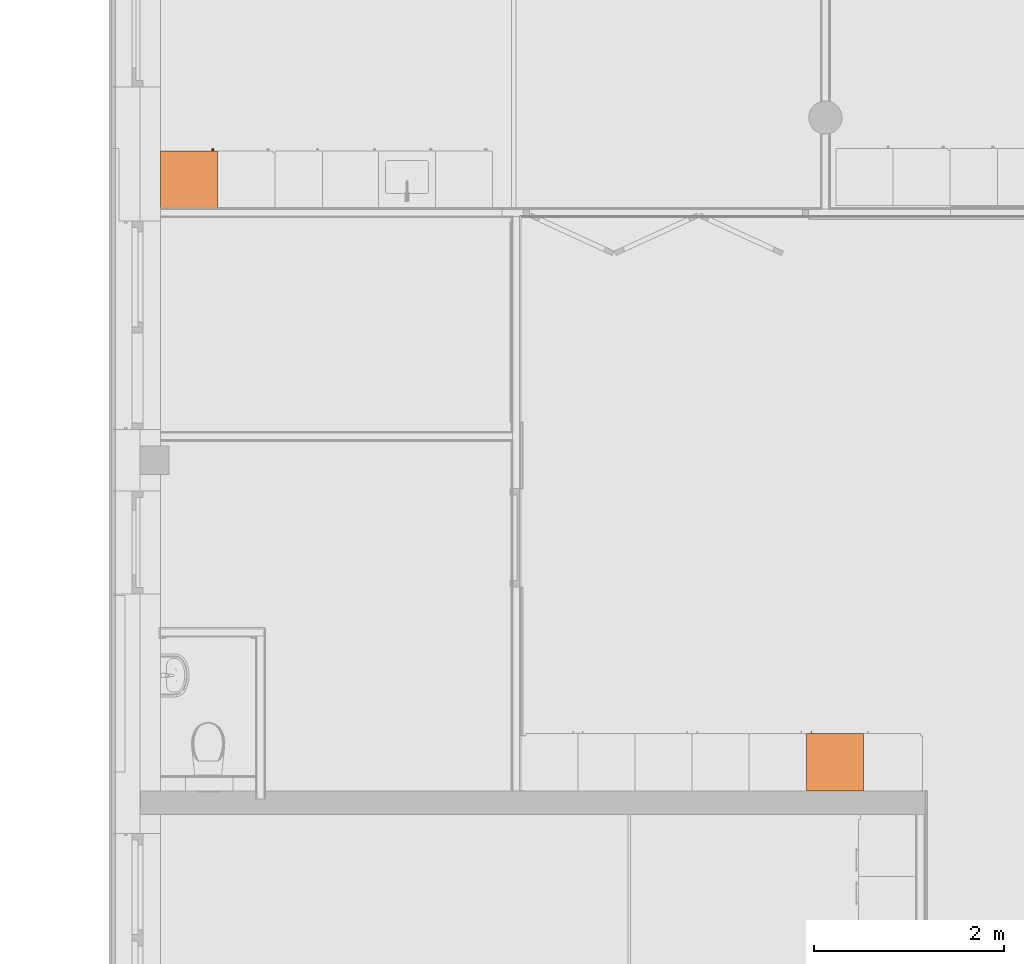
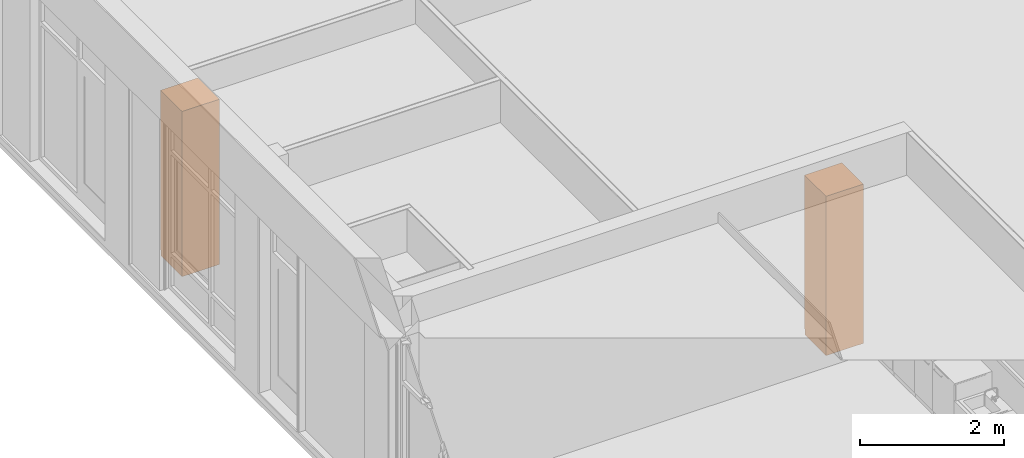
# One storey, part 100 of 167: 2 proxies.
"""IFC2X3 building model written with IfcOpenShell, lengths in millimetres."""

from ifc_helpers import new_model, entity, si_unit, converted_unit, derived_unit, money_unit, direction, frame, origin_with_axes, place, context, subcontext, project, spatial, open_shell, faceted_brep, surface_model, source, transform, mapped, type_object, type_shapes, element, save


model = new_model("IFC2X3")

# Units and contexts
model_context = context("Model", 3, precision=0.01, world=origin_with_axes(), true_north=direction((0.0, 1.0)))
plan_context = context("Plan", 3, precision=0.01, world=origin_with_axes(), true_north=direction((0.0, 1.0)))
body_context = subcontext(model_context, "Body", "Model", "MODEL_VIEW")
ifc_project = project(units=[si_unit("LENGTHUNIT", "METRE", prefix="MILLI"), si_unit("AREAUNIT", "SQUARE_METRE"), si_unit("VOLUMEUNIT", "CUBIC_METRE"), converted_unit("PLANEANGLEUNIT", "DEGREE", entity("IfcPlaneAngleMeasure", 0.0174532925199), si_unit("PLANEANGLEUNIT", "RADIAN"), dimensions=[0, 0, 0, 0, 0, 0, 0]), si_unit("SOLIDANGLEUNIT", "STERADIAN"), money_unit("EUR"), converted_unit("TIMEUNIT", "Year", entity("IfcTimeMeasure", 31556926.0), si_unit("TIMEUNIT", "SECOND"), dimensions=[0, 0, 1, 0, 0, 0, 0]), si_unit("MASSUNIT", "GRAM", prefix="KILO"), si_unit("THERMODYNAMICTEMPERATUREUNIT", "DEGREE_CELSIUS"), si_unit("LUMINOUSINTENSITYUNIT", "LUMEN"), si_unit("ENERGYUNIT", "JOULE", prefix="MEGA"), derived_unit("THERMALCONDUCTANCEUNIT", [(si_unit("POWERUNIT", "WATT"), 1), (si_unit("LENGTHUNIT", "METRE"), -1), (si_unit("THERMODYNAMICTEMPERATUREUNIT", "KELVIN"), -1)]), derived_unit("SPECIFICHEATCAPACITYUNIT", [(si_unit("ENERGYUNIT", "JOULE"), 1), (si_unit("MASSUNIT", "GRAM", prefix="KILO"), -1), (si_unit("THERMODYNAMICTEMPERATUREUNIT", "KELVIN"), -1)]), derived_unit("MASSDENSITYUNIT", [(si_unit("MASSUNIT", "GRAM", prefix="KILO"), 1), (si_unit("VOLUMEUNIT", "CUBIC_METRE"), -1)])], contexts=[model_context, plan_context])

# Site, building, storey
site_placement = place(None, origin_with_axes())
site = spatial("IfcSite", under=ifc_project, at=site_placement, Name="Site", CompositionType="ELEMENT")
building_placement = place(site_placement, origin_with_axes())
building = spatial("IfcBuilding", under=site, at=building_placement, Name="Naam gebouw", CompositionType="ELEMENT")
storey_placement = place(building_placement, origin_with_axes())
storey = spatial("IfcBuildingStorey", under=building, at=storey_placement, Name="Begane grond", CompositionType="ELEMENT", Elevation=0.0)

# Proxies
building_element_proxy_type = type_object("IfcBuildingElementProxyType", Name="Kast hoog 1D 24", PredefinedType="NOTDEFINED")
shared_shape_1 = source(origin_with_axes(), body_context, "Body", "Brep", [
    faceted_brep([(-20.0, 20.0, 838.5), (-20.0, 20.0, 858.5), (-580.0, 20.0, 858.5), (-580.0, 20.0, 838.5), (-20.0, 580.0, 838.5), (-20.0, 580.0, 858.5), (-580.0, 580.0, 858.5), (-580.0, 580.0, 838.5)], [[[0, 1, 2, 3]], [[4, 5, 1, 0]], [[1, 5, 6, 2]], [[3, 2, 6, 7]], [[0, 3, 7, 4]], [[7, 6, 5, 4]]]),
    faceted_brep([(0.0, 20.0, 0.0), (0.0, 20.0, 90.0), (-600.0, 20.0, 90.0), (-600.0, 20.0, 0.0), (0.0, 600.0, 0.0), (0.0, 600.0, 90.0), (-600.0, 600.0, 90.0), (-600.0, 600.0, 0.0)], [[[0, 1, 2, 3]], [[4, 5, 1, 0]], [[1, 5, 6, 2]], [[3, 2, 6, 7]], [[0, 3, 7, 4]], [[7, 6, 5, 4]]]),
    faceted_brep([(0.0, 20.0, 2780.0), (0.0, 20.0, 2800.0), (-20.0, 20.0, 2800.0), (-20.0, 20.0, 2780.0), (0.0, 600.0, 2780.0), (0.0, 600.0, 2800.0), (-20.0, 600.0, 2800.0), (-580.0, 600.0, 2800.0), (-600.0, 600.0, 2800.0), (-600.0, 20.0, 2800.0), (-580.0, 20.0, 2800.0), (-580.0, 20.0, 2780.0), (-600.0, 20.0, 2780.0), (-600.0, 600.0, 2780.0), (-580.0, 600.0, 2780.0), (-20.0, 600.0, 2780.0)], [[[0, 1, 2, 3]], [[4, 5, 1, 0]], [[1, 5, 6, 7, 8, 9, 10, 2]], [[3, 2, 10, 11]], [[0, 3, 11, 12, 13, 14, 15, 4]], [[15, 6, 5, 4]], [[14, 7, 6, 15]], [[13, 8, 7, 14]], [[12, 9, 8, 13]], [[11, 10, 9, 12]]]),
    faceted_brep([(0.0, 20.0, 90.0), (0.0, 20.0, 110.0), (-20.0, 20.0, 110.0), (-20.0, 20.0, 90.0), (0.0, 600.0, 90.0), (0.0, 600.0, 110.0), (-20.0, 600.0, 110.0), (-580.0, 600.0, 110.0), (-600.0, 600.0, 110.0), (-600.0, 20.0, 110.0), (-580.0, 20.0, 110.0), (-580.0, 20.0, 90.0), (-600.0, 20.0, 90.0), (-600.0, 600.0, 90.0), (-580.0, 600.0, 90.0), (-20.0, 600.0, 90.0)], [[[0, 1, 2, 3]], [[4, 5, 1, 0]], [[1, 5, 6, 7, 8, 9, 10, 2]], [[3, 2, 10, 11]], [[0, 3, 11, 12, 13, 14, 15, 4]], [[15, 6, 5, 4]], [[14, 7, 6, 15]], [[13, 8, 7, 14]], [[12, 9, 8, 13]], [[11, 10, 9, 12]]]),
    faceted_brep([(0.0, 20.0, 110.0), (0.0, 20.0, 2780.0), (-20.0, 20.0, 2780.0), (-20.0, 20.0, 110.0), (0.0, 600.0, 110.0), (0.0, 600.0, 2780.0), (-600.0, 600.0, 2780.0), (-600.0, 20.0, 2780.0), (-580.0, 20.0, 2780.0), (-580.0, 580.0, 2780.0), (-20.0, 580.0, 2780.0), (-20.0, 580.0, 110.0), (-580.0, 580.0, 110.0), (-580.0, 20.0, 110.0), (-600.0, 20.0, 110.0), (-600.0, 600.0, 110.0)], [[[0, 1, 2, 3]], [[4, 5, 1, 0]], [[1, 5, 6, 7, 8, 9, 10, 2]], [[3, 2, 10, 11]], [[0, 3, 11, 12, 13, 14, 15, 4]], [[15, 6, 5, 4]], [[14, 7, 6, 15]], [[13, 8, 7, 14]], [[12, 9, 8, 13]], [[11, 10, 9, 12]]]),
    faceted_brep([(-580.0, 20.0, 329.5), (-580.0, 20.0, 349.5), (-580.0, 580.0, 349.5), (-580.0, 580.0, 329.5), (-20.0, 20.0, 329.5), (-20.0, 20.0, 349.5), (-20.0, 580.0, 349.5), (-20.0, 580.0, 329.5)], [[[0, 1, 2, 3]], [[4, 5, 1, 0]], [[1, 5, 6, 2]], [[3, 2, 6, 7]], [[0, 3, 7, 4]], [[7, 6, 5, 4]]]),
    faceted_brep([(-580.0, 20.0, 589.0), (-580.0, 20.0, 609.0), (-580.0, 580.0, 609.0), (-580.0, 580.0, 589.0), (-20.0, 20.0, 589.0), (-20.0, 20.0, 609.0), (-20.0, 580.0, 609.0), (-20.0, 580.0, 589.0)], [[[0, 1, 2, 3]], [[4, 5, 1, 0]], [[1, 5, 6, 2]], [[3, 2, 6, 7]], [[0, 3, 7, 4]], [[7, 6, 5, 4]]]),
    faceted_brep([(-1.5, 20.0, 91.5), (-1.5, 0.0, 91.5), (-598.5, 0.0, 91.5), (-598.5, 20.0, 91.5), (-1.5, 20.0, 847.0), (-1.5, 0.0, 847.0), (-598.5, 0.0, 847.0), (-598.5, 20.0, 847.0)], [[[0, 1, 2, 3]], [[4, 5, 1, 0]], [[1, 5, 6, 2]], [[3, 2, 6, 7]], [[0, 3, 7, 4]], [[7, 6, 5, 4]]]),
    faceted_brep([(-560.091109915, 0.0, 838.394171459), (-560.5, 0.0, 841.5), (-560.091109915, 0.0, 844.605828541), (-558.892304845, 0.0, 847.5), (-556.985281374, 0.0, 849.985281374), (-554.5, 0.0, 851.892304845), (-551.605828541, 0.0, 853.091109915), (-548.5, 0.0, 853.5), (-545.394171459, 0.0, 853.091109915), (-542.5, 0.0, 851.892304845), (-540.014718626, 0.0, 849.985281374), (-538.107695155, 0.0, 847.5), (-536.908890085, 0.0, 844.605828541), (-536.5, 0.0, 841.5), (-536.908890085, 0.0, 838.394171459), (-538.107695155, 0.0, 835.5), (-540.014718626, 0.0, 833.014718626), (-542.5, 0.0, 831.107695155), (-545.394171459, 0.0, 829.908890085), (-548.5, 0.0, 829.5), (-551.605828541, 0.0, 829.908890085), (-554.5, 0.0, 831.107695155), (-556.985281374, 0.0, 833.014718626), (-558.892304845, 0.0, 835.5), (-560.091109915, -25.0, 838.394171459), (-560.5, -25.0, 841.5), (-560.091109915, -25.0, 844.605828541), (-558.892304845, -25.0, 847.5), (-556.985281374, -25.0, 849.985281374), (-554.5, -25.0, 851.892304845), (-551.605828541, -25.0, 853.091109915), (-548.5, -25.0, 853.5), (-545.394171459, -25.0, 853.091109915), (-542.5, -25.0, 851.892304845), (-540.014718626, -25.0, 849.985281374), (-538.107695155, -25.0, 847.5), (-536.908890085, -25.0, 844.605828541), (-536.5, -25.0, 841.5), (-536.908890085, -25.0, 838.394171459), (-538.107695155, -25.0, 835.5), (-540.014718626, -25.0, 833.014718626), (-542.5, -25.0, 831.107695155), (-545.394171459, -25.0, 829.908890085), (-548.5, -25.0, 829.5), (-551.605828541, -25.0, 829.908890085), (-554.5, -25.0, 831.107695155), (-556.985281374, -25.0, 833.014718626), (-558.892304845, -25.0, 835.5)], [[[0, 1, 2, 3, 4, 5, 6, 7, 8, 9, 10, 11, 12, 13, 14, 15, 16, 17, 18, 19, 20, 21, 22, 23]], [[0, 24, 25, 1]], [[1, 25, 26, 2]], [[2, 26, 27, 3]], [[3, 27, 28, 4]], [[4, 28, 29, 5]], [[5, 29, 30, 6]], [[6, 30, 31, 7]], [[7, 31, 32, 8]], [[8, 32, 33, 9]], [[9, 33, 34, 10]], [[10, 34, 35, 11]], [[11, 35, 36, 12]], [[12, 36, 37, 13]], [[13, 37, 38, 14]], [[14, 38, 39, 15]], [[15, 39, 40, 16]], [[16, 40, 41, 17]], [[17, 41, 42, 18]], [[18, 42, 43, 19]], [[19, 43, 44, 20]], [[20, 44, 45, 21]], [[21, 45, 46, 22]], [[22, 46, 47, 23]], [[23, 47, 24, 0]], [[24, 47, 46, 45, 44, 43, 42, 41, 40, 39, 38, 37, 36, 35, 34, 33, 32, 31, 30, 29, 28, 27, 26, 25]]]),
    faceted_brep([(-1.5, 20.0, 850.0), (-1.5, 0.0, 850.0), (-598.5, 0.0, 850.0), (-598.5, 20.0, 850.0), (-1.5, 20.0, 2798.5), (-1.5, 0.0, 2798.5), (-598.5, 0.0, 2798.5), (-598.5, 20.0, 2798.5)], [[[0, 1, 2, 3]], [[4, 5, 1, 0]], [[1, 5, 6, 2]], [[3, 2, 6, 7]], [[0, 3, 7, 4]], [[7, 6, 5, 4]]]),
    faceted_brep([(-560.091109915, 0.0, 896.894171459), (-560.5, 0.0, 900.0), (-560.091109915, 0.0, 903.105828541), (-558.892304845, 0.0, 906.0), (-556.985281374, 0.0, 908.485281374), (-554.5, 0.0, 910.392304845), (-551.605828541, 0.0, 911.591109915), (-548.5, 0.0, 912.0), (-545.394171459, 0.0, 911.591109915), (-542.5, 0.0, 910.392304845), (-540.014718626, 0.0, 908.485281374), (-538.107695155, 0.0, 906.0), (-536.908890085, 0.0, 903.105828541), (-536.5, 0.0, 900.0), (-536.908890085, 0.0, 896.894171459), (-538.107695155, 0.0, 894.0), (-540.014718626, 0.0, 891.514718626), (-542.5, 0.0, 889.607695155), (-545.394171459, 0.0, 888.408890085), (-548.5, 0.0, 888.0), (-551.605828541, 0.0, 888.408890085), (-554.5, 0.0, 889.607695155), (-556.985281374, 0.0, 891.514718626), (-558.892304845, 0.0, 894.0), (-560.091109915, -25.0, 896.894171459), (-560.5, -25.0, 900.0), (-560.091109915, -25.0, 903.105828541), (-558.892304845, -25.0, 906.0), (-556.985281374, -25.0, 908.485281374), (-554.5, -25.0, 910.392304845), (-551.605828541, -25.0, 911.591109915), (-548.5, -25.0, 912.0), (-545.394171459, -25.0, 911.591109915), (-542.5, -25.0, 910.392304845), (-540.014718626, -25.0, 908.485281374), (-538.107695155, -25.0, 906.0), (-536.908890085, -25.0, 903.105828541), (-536.5, -25.0, 900.0), (-536.908890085, -25.0, 896.894171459), (-538.107695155, -25.0, 894.0), (-540.014718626, -25.0, 891.514718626), (-542.5, -25.0, 889.607695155), (-545.394171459, -25.0, 888.408890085), (-548.5, -25.0, 888.0), (-551.605828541, -25.0, 888.408890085), (-554.5, -25.0, 889.607695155), (-556.985281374, -25.0, 891.514718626), (-558.892304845, -25.0, 894.0)], [[[0, 1, 2, 3, 4, 5, 6, 7, 8, 9, 10, 11, 12, 13, 14, 15, 16, 17, 18, 19, 20, 21, 22, 23]], [[0, 24, 25, 1]], [[1, 25, 26, 2]], [[2, 26, 27, 3]], [[3, 27, 28, 4]], [[4, 28, 29, 5]], [[5, 29, 30, 6]], [[6, 30, 31, 7]], [[7, 31, 32, 8]], [[8, 32, 33, 9]], [[9, 33, 34, 10]], [[10, 34, 35, 11]], [[11, 35, 36, 12]], [[12, 36, 37, 13]], [[13, 37, 38, 14]], [[14, 38, 39, 15]], [[15, 39, 40, 16]], [[16, 40, 41, 17]], [[17, 41, 42, 18]], [[18, 42, 43, 19]], [[19, 43, 44, 20]], [[20, 44, 45, 21]], [[21, 45, 46, 22]], [[22, 46, 47, 23]], [[23, 47, 24, 0]], [[24, 47, 46, 45, 44, 43, 42, 41, 40, 39, 38, 37, 36, 35, 34, 33, 32, 31, 30, 29, 28, 27, 26, 25]]]),
])
proxy_1_placement = place(storey_placement, frame((214.0, 42850.0, 0.0), z_axis=(0.0, 0.0, 1.0), x_axis=(-1.0, 0.0, 0.0)))
element("IfcBuildingElementProxy", 1, at=proxy_1_placement, inside=storey, type_object=building_element_proxy_type, Name="__Object-x", context=body_context, shape_type="MappedRepresentation", body=[
    mapped(shared_shape_1, transform((0.0, 0.0, 0.0))),
])
shared_shape_2 = source(origin_with_axes(), body_context, "Body", "SurfaceModel", [
    faceted_brep([(20.0, 20.0, 1780.0), (580.0, 20.0, 1780.0), (580.0, 20.0, 1800.0), (20.0, 20.0, 1800.0), (20.0, 580.0, 1780.0), (580.0, 580.0, 1780.0), (580.0, 580.0, 1800.0), (20.0, 580.0, 1800.0)], [[[0, 1, 2, 3]], [[0, 4, 5, 1]], [[1, 5, 6, 2]], [[3, 2, 6, 7]], [[4, 0, 3, 7]], [[5, 4, 7, 6]]]),
    faceted_brep([(0.0, 20.0, 0.0), (600.0, 20.0, 0.0), (600.0, 20.0, 90.0), (0.0, 20.0, 90.0), (0.0, 600.0, 0.0), (600.0, 600.0, 0.0), (600.0, 600.0, 90.0), (0.0, 600.0, 90.0)], [[[0, 1, 2, 3]], [[0, 4, 5, 1]], [[1, 5, 6, 2]], [[3, 2, 6, 7]], [[4, 0, 3, 7]], [[5, 4, 7, 6]]]),
    faceted_brep([(0.0, 20.0, 2680.0), (20.0, 20.0, 2680.0), (20.0, 20.0, 2700.0), (0.0, 20.0, 2700.0), (0.0, 600.0, 2680.0), (20.0, 600.0, 2680.0), (580.0, 600.0, 2680.0), (600.0, 600.0, 2680.0), (600.0, 20.0, 2680.0), (580.0, 20.0, 2680.0), (580.0, 20.0, 2700.0), (600.0, 20.0, 2700.0), (600.0, 600.0, 2700.0), (580.0, 600.0, 2700.0), (20.0, 600.0, 2700.0), (0.0, 600.0, 2700.0)], [[[0, 1, 2, 3]], [[0, 4, 5, 6, 7, 8, 9, 1]], [[1, 9, 10, 2]], [[3, 2, 10, 11, 12, 13, 14, 15]], [[4, 0, 3, 15]], [[5, 4, 15, 14]], [[6, 5, 14, 13]], [[7, 6, 13, 12]], [[8, 7, 12, 11]], [[9, 8, 11, 10]]]),
    faceted_brep([(0.0, 20.0, 90.0), (20.0, 20.0, 90.0), (20.0, 20.0, 110.0), (0.0, 20.0, 110.0), (0.0, 600.0, 90.0), (20.0, 600.0, 90.0), (580.0, 600.0, 90.0), (600.0, 600.0, 90.0), (600.0, 20.0, 90.0), (580.0, 20.0, 90.0), (580.0, 20.0, 110.0), (600.0, 20.0, 110.0), (600.0, 600.0, 110.0), (580.0, 600.0, 110.0), (20.0, 600.0, 110.0), (0.0, 600.0, 110.0)], [[[0, 1, 2, 3]], [[0, 4, 5, 6, 7, 8, 9, 1]], [[1, 9, 10, 2]], [[3, 2, 10, 11, 12, 13, 14, 15]], [[4, 0, 3, 15]], [[5, 4, 15, 14]], [[6, 5, 14, 13]], [[7, 6, 13, 12]], [[8, 7, 12, 11]], [[9, 8, 11, 10]]]),
    faceted_brep([(0.0, 20.0, 110.0), (20.0, 20.0, 110.0), (20.0, 20.0, 2680.0), (0.0, 20.0, 2680.0), (0.0, 600.0, 110.0), (600.0, 600.0, 110.0), (600.0, 20.0, 110.0), (580.0, 20.0, 110.0), (580.0, 580.0, 110.0), (20.0, 580.0, 110.0), (20.0, 580.0, 2680.0), (580.0, 580.0, 2680.0), (580.0, 20.0, 2680.0), (600.0, 20.0, 2680.0), (600.0, 600.0, 2680.0), (0.0, 600.0, 2680.0)], [[[0, 1, 2, 3]], [[0, 4, 5, 6, 7, 8, 9, 1]], [[1, 9, 10, 2]], [[3, 2, 10, 11, 12, 13, 14, 15]], [[4, 0, 3, 15]], [[5, 4, 15, 14]], [[6, 5, 14, 13]], [[7, 6, 13, 12]], [[8, 7, 12, 11]], [[9, 8, 11, 10]]]),
    faceted_brep([(580.0, 20.0, 414.0), (580.0, 580.0, 414.0), (580.0, 580.0, 434.0), (580.0, 20.0, 434.0), (20.0, 20.0, 414.0), (20.0, 580.0, 414.0), (20.0, 580.0, 434.0), (20.0, 20.0, 434.0)], [[[0, 1, 2, 3]], [[0, 4, 5, 1]], [[1, 5, 6, 2]], [[3, 2, 6, 7]], [[4, 0, 3, 7]], [[5, 4, 7, 6]]]),
    faceted_brep([(580.0, 20.0, 758.0), (580.0, 580.0, 758.0), (580.0, 580.0, 778.0), (580.0, 20.0, 778.0), (20.0, 20.0, 758.0), (20.0, 580.0, 758.0), (20.0, 580.0, 778.0), (20.0, 20.0, 778.0)], [[[0, 1, 2, 3]], [[0, 4, 5, 1]], [[1, 5, 6, 2]], [[3, 2, 6, 7]], [[4, 0, 3, 7]], [[5, 4, 7, 6]]]),
    faceted_brep([(580.0, 20.0, 1102.0), (580.0, 580.0, 1102.0), (580.0, 580.0, 1122.0), (580.0, 20.0, 1122.0), (20.0, 20.0, 1102.0), (20.0, 580.0, 1102.0), (20.0, 580.0, 1122.0), (20.0, 20.0, 1122.0)], [[[0, 1, 2, 3]], [[0, 4, 5, 1]], [[1, 5, 6, 2]], [[3, 2, 6, 7]], [[4, 0, 3, 7]], [[5, 4, 7, 6]]]),
    faceted_brep([(580.0, 20.0, 1446.0), (580.0, 580.0, 1446.0), (580.0, 580.0, 1466.0), (580.0, 20.0, 1466.0), (20.0, 20.0, 1446.0), (20.0, 580.0, 1446.0), (20.0, 580.0, 1466.0), (20.0, 20.0, 1466.0)], [[[0, 1, 2, 3]], [[0, 4, 5, 1]], [[1, 5, 6, 2]], [[3, 2, 6, 7]], [[4, 0, 3, 7]], [[5, 4, 7, 6]]]),
    faceted_brep([(1.5, 20.0, 91.5), (598.5, 20.0, 91.5), (598.5, 0.0, 91.5), (1.5, 0.0, 91.5), (1.5, 20.0, 1788.5), (598.5, 20.0, 1788.5), (598.5, 0.0, 1788.5), (1.5, 0.0, 1788.5)], [[[0, 1, 2, 3]], [[0, 4, 5, 1]], [[1, 5, 6, 2]], [[3, 2, 6, 7]], [[4, 0, 3, 7]], [[5, 4, 7, 6]]]),
    faceted_brep([(551.397777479, -27.7764571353, 891.5), (551.098076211, -28.5, 891.5), (550.621320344, -29.1213203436, 891.5), (550.0, -29.5980762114, 891.5), (549.276457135, -29.8977774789, 891.5), (548.5, -30.0, 891.5), (547.723542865, -29.8977774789, 891.5), (547.0, -29.5980762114, 891.5), (546.378679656, -29.1213203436, 891.5), (545.901923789, -28.5, 891.5), (545.602222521, -27.7764571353, 891.5), (545.5, -27.0, 891.5), (545.602222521, -26.2235428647, 891.5), (545.901923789, -25.5, 891.5), (546.378679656, -24.8786796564, 891.5), (547.0, -24.4019237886, 891.5), (547.723542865, -24.1022225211, 891.5), (548.5, -24.0, 891.5), (549.276457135, -24.1022225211, 891.5), (550.0, -24.4019237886, 891.5), (550.621320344, -24.8786796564, 891.5), (551.098076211, -25.5, 891.5), (551.397777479, -26.2235428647, 891.5), (551.5, -27.0, 891.5), (551.397777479, -27.7764571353, 1141.5), (551.098076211, -28.5, 1141.5), (550.621320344, -29.1213203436, 1141.5), (550.0, -29.5980762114, 1141.5), (549.276457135, -29.8977774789, 1141.5), (548.5, -30.0, 1141.5), (547.723542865, -29.8977774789, 1141.5), (547.0, -29.5980762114, 1141.5), (546.378679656, -29.1213203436, 1141.5), (545.901923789, -28.5, 1141.5), (545.602222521, -27.7764571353, 1141.5), (545.5, -27.0, 1141.5), (545.602222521, -26.2235428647, 1141.5), (545.901923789, -25.5, 1141.5), (546.378679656, -24.8786796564, 1141.5), (547.0, -24.4019237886, 1141.5), (547.723542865, -24.1022225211, 1141.5), (548.5, -24.0, 1141.5), (549.276457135, -24.1022225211, 1141.5), (550.0, -24.4019237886, 1141.5), (550.621320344, -24.8786796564, 1141.5), (551.098076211, -25.5, 1141.5), (551.397777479, -26.2235428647, 1141.5), (551.5, -27.0, 1141.5)], [[[0, 1, 2, 3, 4, 5, 6, 7, 8, 9, 10, 11, 12, 13, 14, 15, 16, 17, 18, 19, 20, 21, 22, 23]], [[1, 0, 24, 25]], [[2, 1, 25, 26]], [[3, 2, 26, 27]], [[4, 3, 27, 28]], [[5, 4, 28, 29]], [[6, 5, 29, 30]], [[7, 6, 30, 31]], [[8, 7, 31, 32]], [[9, 8, 32, 33]], [[10, 9, 33, 34]], [[11, 10, 34, 35]], [[12, 11, 35, 36]], [[13, 12, 36, 37]], [[14, 13, 37, 38]], [[15, 14, 38, 39]], [[16, 15, 39, 40]], [[17, 16, 40, 41]], [[18, 17, 41, 42]], [[19, 18, 42, 43]], [[20, 19, 43, 44]], [[21, 20, 44, 45]], [[22, 21, 45, 46]], [[23, 22, 46, 47]], [[0, 23, 47, 24]], [[24, 47, 46, 45, 44, 43, 42, 41, 40, 39, 38, 37, 36, 35, 34, 33, 32, 31, 30, 29, 28, 27, 26, 25]]]),
    surface_model("IfcShellBasedSurfaceModel", [(549.147047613, -24.070609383, 914.085185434), (548.5, -24.0, 914.0), (548.5, 0.0, 914.0), (549.147047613, 0.0, 914.085185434), (547.852952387, -24.070609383, 914.085185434), (547.852952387, 0.0, 914.085185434), (547.25, 0.0, 914.334936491), (546.732233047, 0.0, 914.732233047), (546.334936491, 0.0, 915.25), (546.085185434, 0.0, 915.852952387), (546.0, 0.0, 916.5), (546.085185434, 0.0, 917.147047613), (546.334936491, 0.0, 917.75), (546.732233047, 0.0, 918.267766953), (547.25, 0.0, 918.665063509), (547.852952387, 0.0, 918.914814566), (548.5, 0.0, 919.0), (549.147047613, 0.0, 918.914814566), (549.75, 0.0, 918.665063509), (550.267766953, 0.0, 918.267766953), (550.665063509, 0.0, 917.75), (550.914814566, 0.0, 917.147047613), (551.0, 0.0, 916.5), (550.914814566, 0.0, 915.852952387), (550.665063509, 0.0, 915.25), (550.267766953, 0.0, 914.732233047), (549.75, 0.0, 914.334936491), (549.75, -24.2728219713, 914.334936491), (547.25, -24.2728219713, 914.334936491), (546.732233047, -24.5761600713, 914.732233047), (546.334936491, -24.9233440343, 915.25), (546.085185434, -25.2199239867, 915.852952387), (546.0, -25.3416876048, 916.5), (546.085185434, -25.2199239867, 917.147047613), (546.334936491, -24.9233440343, 917.75), (546.732233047, -24.5761600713, 918.267766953), (547.25, -24.2728219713, 918.665063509), (547.852952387, -24.070609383, 918.914814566), (548.5, -24.0, 919.0), (549.147047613, -24.070609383, 918.914814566), (549.75, -24.2728219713, 918.665063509), (550.267766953, -24.5761600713, 918.267766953), (550.665063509, -24.9233440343, 917.75), (550.914814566, -25.2199239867, 917.147047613), (551.0, -25.3416876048, 916.5), (550.914814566, -25.2199239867, 915.852952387), (550.665063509, -24.9233440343, 915.25), (550.267766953, -24.5761600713, 914.732233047)], [open_shell([[[0, 1, 2, 3]], [[1, 4, 5, 2]], [[3, 2, 5, 6, 7, 8, 9, 10, 11, 12, 13, 14, 15, 16, 17, 18, 19, 20, 21, 22, 23, 24, 25, 26]], [[27, 0, 3, 26]], [[4, 28, 6, 5]], [[28, 29, 7, 6]], [[29, 30, 8, 7]], [[30, 31, 9, 8]], [[31, 32, 10, 9]], [[32, 33, 11, 10]], [[33, 34, 12, 11]], [[34, 35, 13, 12]], [[35, 36, 14, 13]], [[36, 37, 15, 14]], [[37, 38, 16, 15]], [[38, 39, 17, 16]], [[39, 40, 18, 17]], [[40, 41, 19, 18]], [[41, 42, 20, 19]], [[42, 43, 21, 20]], [[43, 44, 22, 21]], [[44, 45, 23, 22]], [[45, 46, 24, 23]], [[46, 47, 25, 24]], [[47, 27, 26, 25]]])]),
    surface_model("IfcShellBasedSurfaceModel", [(549.147047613, -24.070609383, 1114.08518543), (548.5, -24.0, 1114.0), (548.5, 0.0, 1114.0), (549.147047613, 0.0, 1114.08518543), (547.852952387, -24.070609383, 1114.08518543), (547.852952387, 0.0, 1114.08518543), (547.25, 0.0, 1114.33493649), (546.732233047, 0.0, 1114.73223305), (546.334936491, 0.0, 1115.25), (546.085185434, 0.0, 1115.85295239), (546.0, 0.0, 1116.5), (546.085185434, 0.0, 1117.14704761), (546.334936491, 0.0, 1117.75), (546.732233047, 0.0, 1118.26776695), (547.25, 0.0, 1118.66506351), (547.852952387, 0.0, 1118.91481457), (548.5, 0.0, 1119.0), (549.147047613, 0.0, 1118.91481457), (549.75, 0.0, 1118.66506351), (550.267766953, 0.0, 1118.26776695), (550.665063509, 0.0, 1117.75), (550.914814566, 0.0, 1117.14704761), (551.0, 0.0, 1116.5), (550.914814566, 0.0, 1115.85295239), (550.665063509, 0.0, 1115.25), (550.267766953, 0.0, 1114.73223305), (549.75, 0.0, 1114.33493649), (549.75, -24.2728219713, 1114.33493649), (547.25, -24.2728219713, 1114.33493649), (546.732233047, -24.5761600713, 1114.73223305), (546.334936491, -24.9233440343, 1115.25), (546.085185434, -25.2199239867, 1115.85295239), (546.0, -25.3416876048, 1116.5), (546.085185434, -25.2199239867, 1117.14704761), (546.334936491, -24.9233440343, 1117.75), (546.732233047, -24.5761600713, 1118.26776695), (547.25, -24.2728219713, 1118.66506351), (547.852952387, -24.070609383, 1118.91481457), (548.5, -24.0, 1119.0), (549.147047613, -24.070609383, 1118.91481457), (549.75, -24.2728219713, 1118.66506351), (550.267766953, -24.5761600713, 1118.26776695), (550.665063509, -24.9233440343, 1117.75), (550.914814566, -25.2199239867, 1117.14704761), (551.0, -25.3416876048, 1116.5), (550.914814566, -25.2199239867, 1115.85295239), (550.665063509, -24.9233440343, 1115.25), (550.267766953, -24.5761600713, 1114.73223305)], [open_shell([[[0, 1, 2, 3]], [[1, 4, 5, 2]], [[3, 2, 5, 6, 7, 8, 9, 10, 11, 12, 13, 14, 15, 16, 17, 18, 19, 20, 21, 22, 23, 24, 25, 26]], [[27, 0, 3, 26]], [[4, 28, 6, 5]], [[28, 29, 7, 6]], [[29, 30, 8, 7]], [[30, 31, 9, 8]], [[31, 32, 10, 9]], [[32, 33, 11, 10]], [[33, 34, 12, 11]], [[34, 35, 13, 12]], [[35, 36, 14, 13]], [[36, 37, 15, 14]], [[37, 38, 16, 15]], [[38, 39, 17, 16]], [[39, 40, 18, 17]], [[40, 41, 19, 18]], [[41, 42, 20, 19]], [[42, 43, 21, 20]], [[43, 44, 22, 21]], [[44, 45, 23, 22]], [[45, 46, 24, 23]], [[46, 47, 25, 24]], [[47, 27, 26, 25]]])]),
    faceted_brep([(1.5, 20.0, 1791.5), (598.5, 20.0, 1791.5), (598.5, 0.0, 1791.5), (1.5, 0.0, 1791.5), (1.5, 20.0, 2698.5), (598.5, 20.0, 2698.5), (598.5, 0.0, 2698.5), (1.5, 0.0, 2698.5)], [[[0, 1, 2, 3]], [[0, 4, 5, 1]], [[1, 5, 6, 2]], [[3, 2, 6, 7]], [[4, 0, 3, 7]], [[5, 4, 7, 6]]]),
    faceted_brep([(551.397777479, -27.7764571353, 1841.5), (551.098076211, -28.5, 1841.5), (550.621320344, -29.1213203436, 1841.5), (550.0, -29.5980762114, 1841.5), (549.276457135, -29.8977774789, 1841.5), (548.5, -30.0, 1841.5), (547.723542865, -29.8977774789, 1841.5), (547.0, -29.5980762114, 1841.5), (546.378679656, -29.1213203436, 1841.5), (545.901923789, -28.5, 1841.5), (545.602222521, -27.7764571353, 1841.5), (545.5, -27.0, 1841.5), (545.602222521, -26.2235428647, 1841.5), (545.901923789, -25.5, 1841.5), (546.378679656, -24.8786796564, 1841.5), (547.0, -24.4019237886, 1841.5), (547.723542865, -24.1022225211, 1841.5), (548.5, -24.0, 1841.5), (549.276457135, -24.1022225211, 1841.5), (550.0, -24.4019237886, 1841.5), (550.621320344, -24.8786796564, 1841.5), (551.098076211, -25.5, 1841.5), (551.397777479, -26.2235428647, 1841.5), (551.5, -27.0, 1841.5), (551.397777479, -27.7764571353, 2091.5), (551.098076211, -28.5, 2091.5), (550.621320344, -29.1213203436, 2091.5), (550.0, -29.5980762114, 2091.5), (549.276457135, -29.8977774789, 2091.5), (548.5, -30.0, 2091.5), (547.723542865, -29.8977774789, 2091.5), (547.0, -29.5980762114, 2091.5), (546.378679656, -29.1213203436, 2091.5), (545.901923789, -28.5, 2091.5), (545.602222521, -27.7764571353, 2091.5), (545.5, -27.0, 2091.5), (545.602222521, -26.2235428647, 2091.5), (545.901923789, -25.5, 2091.5), (546.378679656, -24.8786796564, 2091.5), (547.0, -24.4019237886, 2091.5), (547.723542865, -24.1022225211, 2091.5), (548.5, -24.0, 2091.5), (549.276457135, -24.1022225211, 2091.5), (550.0, -24.4019237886, 2091.5), (550.621320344, -24.8786796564, 2091.5), (551.098076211, -25.5, 2091.5), (551.397777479, -26.2235428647, 2091.5), (551.5, -27.0, 2091.5)], [[[0, 1, 2, 3, 4, 5, 6, 7, 8, 9, 10, 11, 12, 13, 14, 15, 16, 17, 18, 19, 20, 21, 22, 23]], [[1, 0, 24, 25]], [[2, 1, 25, 26]], [[3, 2, 26, 27]], [[4, 3, 27, 28]], [[5, 4, 28, 29]], [[6, 5, 29, 30]], [[7, 6, 30, 31]], [[8, 7, 31, 32]], [[9, 8, 32, 33]], [[10, 9, 33, 34]], [[11, 10, 34, 35]], [[12, 11, 35, 36]], [[13, 12, 36, 37]], [[14, 13, 37, 38]], [[15, 14, 38, 39]], [[16, 15, 39, 40]], [[17, 16, 40, 41]], [[18, 17, 41, 42]], [[19, 18, 42, 43]], [[20, 19, 43, 44]], [[21, 20, 44, 45]], [[22, 21, 45, 46]], [[23, 22, 46, 47]], [[0, 23, 47, 24]], [[24, 47, 46, 45, 44, 43, 42, 41, 40, 39, 38, 37, 36, 35, 34, 33, 32, 31, 30, 29, 28, 27, 26, 25]]]),
    surface_model("IfcShellBasedSurfaceModel", [(549.147047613, -24.070609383, 1864.08518543), (548.5, -24.0, 1864.0), (548.5, 0.0, 1864.0), (549.147047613, 0.0, 1864.08518543), (547.852952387, -24.070609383, 1864.08518543), (547.852952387, 0.0, 1864.08518543), (547.25, 0.0, 1864.33493649), (546.732233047, 0.0, 1864.73223305), (546.334936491, 0.0, 1865.25), (546.085185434, 0.0, 1865.85295239), (546.0, 0.0, 1866.5), (546.085185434, 0.0, 1867.14704761), (546.334936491, 0.0, 1867.75), (546.732233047, 0.0, 1868.26776695), (547.25, 0.0, 1868.66506351), (547.852952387, 0.0, 1868.91481457), (548.5, 0.0, 1869.0), (549.147047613, 0.0, 1868.91481457), (549.75, 0.0, 1868.66506351), (550.267766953, 0.0, 1868.26776695), (550.665063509, 0.0, 1867.75), (550.914814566, 0.0, 1867.14704761), (551.0, 0.0, 1866.5), (550.914814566, 0.0, 1865.85295239), (550.665063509, 0.0, 1865.25), (550.267766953, 0.0, 1864.73223305), (549.75, 0.0, 1864.33493649), (549.75, -24.2728219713, 1864.33493649), (547.25, -24.2728219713, 1864.33493649), (546.732233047, -24.5761600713, 1864.73223305), (546.334936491, -24.9233440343, 1865.25), (546.085185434, -25.2199239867, 1865.85295239), (546.0, -25.3416876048, 1866.5), (546.085185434, -25.2199239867, 1867.14704761), (546.334936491, -24.9233440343, 1867.75), (546.732233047, -24.5761600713, 1868.26776695), (547.25, -24.2728219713, 1868.66506351), (547.852952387, -24.070609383, 1868.91481457), (548.5, -24.0, 1869.0), (549.147047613, -24.070609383, 1868.91481457), (549.75, -24.2728219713, 1868.66506351), (550.267766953, -24.5761600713, 1868.26776695), (550.665063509, -24.9233440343, 1867.75), (550.914814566, -25.2199239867, 1867.14704761), (551.0, -25.3416876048, 1866.5), (550.914814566, -25.2199239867, 1865.85295239), (550.665063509, -24.9233440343, 1865.25), (550.267766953, -24.5761600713, 1864.73223305)], [open_shell([[[0, 1, 2, 3]], [[1, 4, 5, 2]], [[3, 2, 5, 6, 7, 8, 9, 10, 11, 12, 13, 14, 15, 16, 17, 18, 19, 20, 21, 22, 23, 24, 25, 26]], [[27, 0, 3, 26]], [[4, 28, 6, 5]], [[28, 29, 7, 6]], [[29, 30, 8, 7]], [[30, 31, 9, 8]], [[31, 32, 10, 9]], [[32, 33, 11, 10]], [[33, 34, 12, 11]], [[34, 35, 13, 12]], [[35, 36, 14, 13]], [[36, 37, 15, 14]], [[37, 38, 16, 15]], [[38, 39, 17, 16]], [[39, 40, 18, 17]], [[40, 41, 19, 18]], [[41, 42, 20, 19]], [[42, 43, 21, 20]], [[43, 44, 22, 21]], [[44, 45, 23, 22]], [[45, 46, 24, 23]], [[46, 47, 25, 24]], [[47, 27, 26, 25]]])]),
    surface_model("IfcShellBasedSurfaceModel", [(549.147047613, -24.070609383, 2064.08518543), (548.5, -24.0, 2064.0), (548.5, 0.0, 2064.0), (549.147047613, 0.0, 2064.08518543), (547.852952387, -24.070609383, 2064.08518543), (547.852952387, 0.0, 2064.08518543), (547.25, 0.0, 2064.33493649), (546.732233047, 0.0, 2064.73223305), (546.334936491, 0.0, 2065.25), (546.085185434, 0.0, 2065.85295239), (546.0, 0.0, 2066.5), (546.085185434, 0.0, 2067.14704761), (546.334936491, 0.0, 2067.75), (546.732233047, 0.0, 2068.26776695), (547.25, 0.0, 2068.66506351), (547.852952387, 0.0, 2068.91481457), (548.5, 0.0, 2069.0), (549.147047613, 0.0, 2068.91481457), (549.75, 0.0, 2068.66506351), (550.267766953, 0.0, 2068.26776695), (550.665063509, 0.0, 2067.75), (550.914814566, 0.0, 2067.14704761), (551.0, 0.0, 2066.5), (550.914814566, 0.0, 2065.85295239), (550.665063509, 0.0, 2065.25), (550.267766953, 0.0, 2064.73223305), (549.75, 0.0, 2064.33493649), (549.75, -24.2728219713, 2064.33493649), (547.25, -24.2728219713, 2064.33493649), (546.732233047, -24.5761600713, 2064.73223305), (546.334936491, -24.9233440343, 2065.25), (546.085185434, -25.2199239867, 2065.85295239), (546.0, -25.3416876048, 2066.5), (546.085185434, -25.2199239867, 2067.14704761), (546.334936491, -24.9233440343, 2067.75), (546.732233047, -24.5761600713, 2068.26776695), (547.25, -24.2728219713, 2068.66506351), (547.852952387, -24.070609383, 2068.91481457), (548.5, -24.0, 2069.0), (549.147047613, -24.070609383, 2068.91481457), (549.75, -24.2728219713, 2068.66506351), (550.267766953, -24.5761600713, 2068.26776695), (550.665063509, -24.9233440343, 2067.75), (550.914814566, -25.2199239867, 2067.14704761), (551.0, -25.3416876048, 2066.5), (550.914814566, -25.2199239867, 2065.85295239), (550.665063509, -24.9233440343, 2065.25), (550.267766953, -24.5761600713, 2064.73223305)], [open_shell([[[0, 1, 2, 3]], [[1, 4, 5, 2]], [[3, 2, 5, 6, 7, 8, 9, 10, 11, 12, 13, 14, 15, 16, 17, 18, 19, 20, 21, 22, 23, 24, 25, 26]], [[27, 0, 3, 26]], [[4, 28, 6, 5]], [[28, 29, 7, 6]], [[29, 30, 8, 7]], [[30, 31, 9, 8]], [[31, 32, 10, 9]], [[32, 33, 11, 10]], [[33, 34, 12, 11]], [[34, 35, 13, 12]], [[35, 36, 14, 13]], [[36, 37, 15, 14]], [[37, 38, 16, 15]], [[38, 39, 17, 16]], [[39, 40, 18, 17]], [[40, 41, 19, 18]], [[41, 42, 20, 19]], [[42, 43, 21, 20]], [[43, 44, 22, 21]], [[44, 45, 23, 22]], [[45, 46, 24, 23]], [[46, 47, 25, 24]], [[47, 27, 26, 25]]])]),
])
type_shapes(building_element_proxy_type, [shared_shape_1, shared_shape_2])
proxy_2_placement = place(storey_placement, frame((7600.0, 36725.0, 0.0), z_axis=(0.0, 0.0, 1.0), x_axis=(-1.0, 0.0, 0.0)))
element("IfcBuildingElementProxy", 2, at=proxy_2_placement, inside=storey, type_object=building_element_proxy_type, Name="__Object-x", context=body_context, shape_type="MappedRepresentation", body=[
    mapped(shared_shape_2, transform((0.0, 0.0, 0.0))),
])

save(model, "model.ifc")
